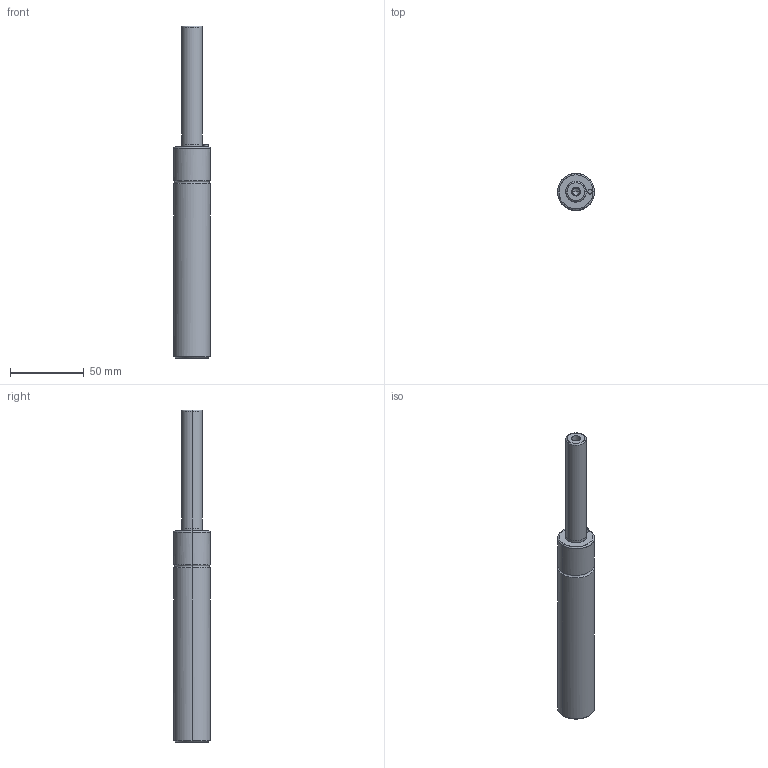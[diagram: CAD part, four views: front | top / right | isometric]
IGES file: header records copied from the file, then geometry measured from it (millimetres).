
Global section: file name: E:\UnigraphicsGraphicData\MISUMI_PRESS-PARTS\IGES\3d_gsm25-80_03942_r00.igs; native system: NX V5.0; preprocessor: UGS NX IGES V5.0; author: MISUMI; date: 20110105.160808; units: millimetre
Bounding box: 25 x 24.96 x 225 mm (x, y, z)
Surface area: 16181.8 mm2 (no closed solid volume)
Topology: 0 solids, 0 shells, 36 faces, 216 edges, 212 vertices
Faces by surface type: bspline 36
